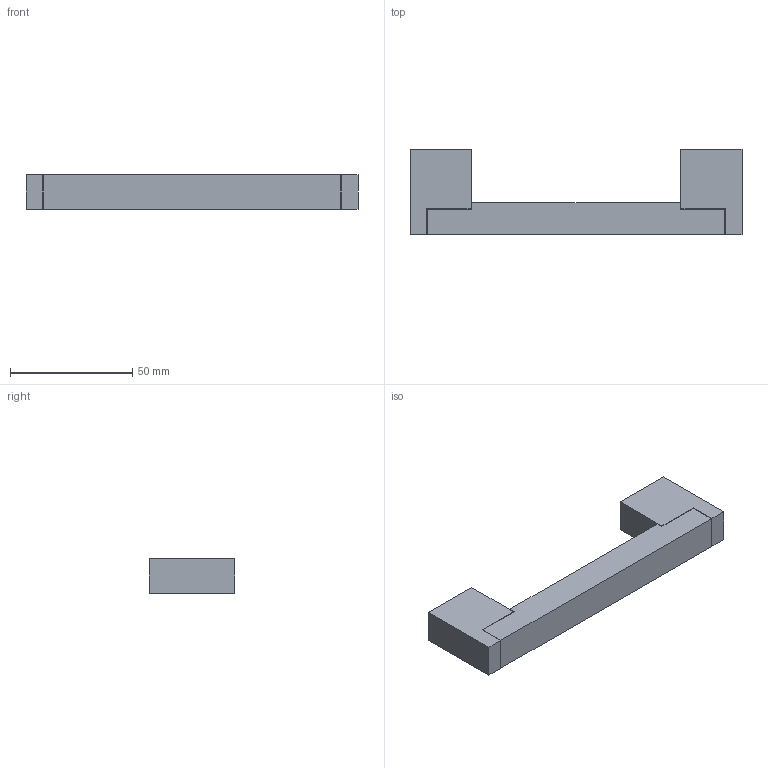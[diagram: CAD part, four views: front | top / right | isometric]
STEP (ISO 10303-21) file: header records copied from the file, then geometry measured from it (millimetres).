
FILE_DESCRIPTION( ( '' ), '1' );
FILE_NAME( 'D:/1.AUTOCAD EXPORT/Group 10/sheet_10_1/9071737.stp', '2013-10-16T09:18:16', ( '' ), ( '' ), ' ', ' ', ' ' );
FILE_SCHEMA( ( 'automotive_design' ) );
Length unit declared in the file: millimetre
Products named in the file (1): 1
Bounding box: 136 x 35 x 14 mm (x, y, z)
Volume: 39944.9 mm3; surface area: 11401.4 mm2
Topology: 1 solids, 1 shells, 44 faces, 120 edges, 80 vertices
Faces by surface type: plane 40, cylinder 4
Entity records: 2748 total; most frequent: STYLED_ITEM 245, PRESENTATION_STYLE_ASSIGNMENT 245, CARTESIAN_POINT 245, COLOUR_RGB 245, ORIENTED_EDGE 240, DIRECTION 218, EDGE_CURVE 120, CURVE_STYLE 120
